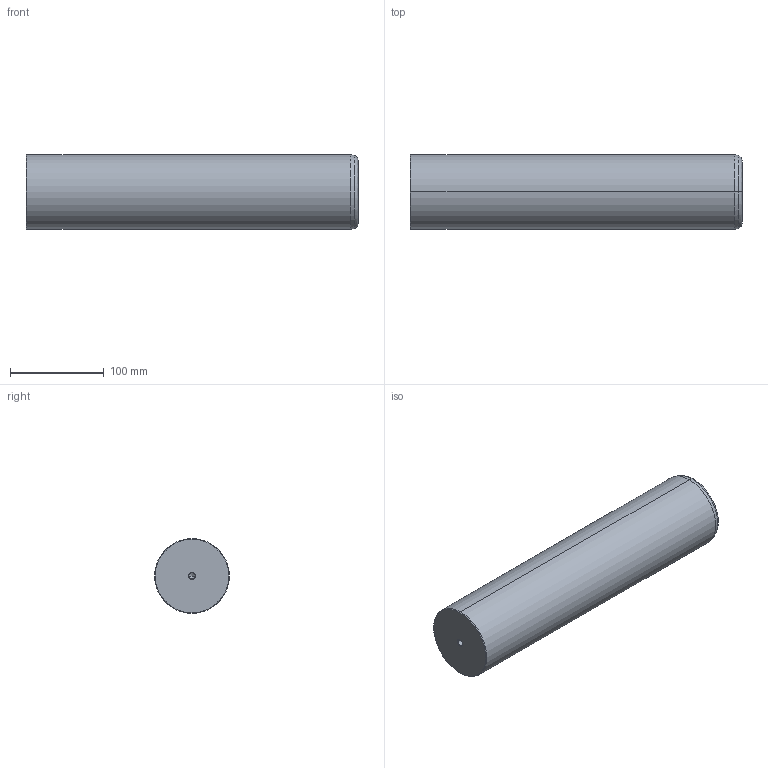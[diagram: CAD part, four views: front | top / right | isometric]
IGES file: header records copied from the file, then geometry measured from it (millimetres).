
Start section: START RECORD GO HERE.
Global section: file name: 720-80x355.igs; native system: DASSAULT SYSTEMES CATIA V5 R20 - www.3ds.com; preprocessor: CATIA Version 5 Release 20 ; author: Utente; organization: NB04-ASUS; date: 20201230.222231; units: millimetre
Bounding box: 355 x 80 x 80 mm (x, y, z)
Surface area: 99380.2 mm2 (no closed solid volume)
Topology: 0 solids, 0 shells, 22 faces, 120 edges, 116 vertices
Faces by surface type: revolution 20, plane 2
